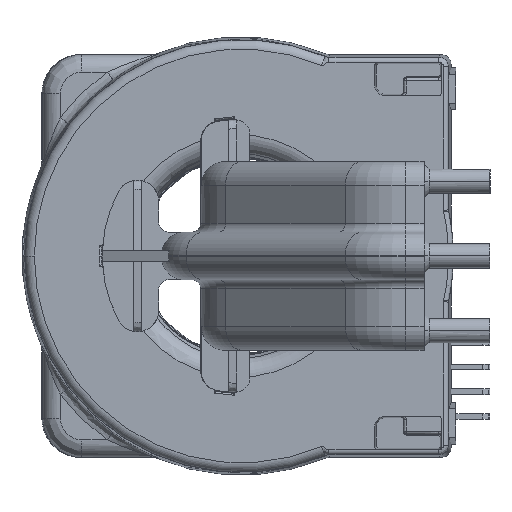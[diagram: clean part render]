
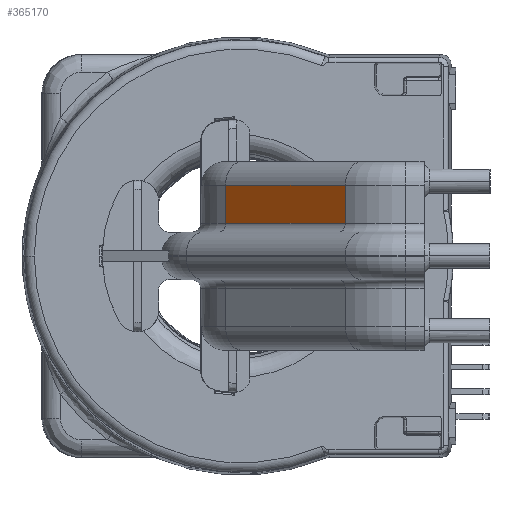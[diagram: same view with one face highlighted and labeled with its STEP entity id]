
A CAD part, front view. The second image highlights one B-rep face of the part: STEP entity #365170.
In plain terms, the highlighted planar face has unit normal (-0.707, -0.707, 0) as drawn and (0.707, 0.707, 0) by its records, which use the part's own axes.
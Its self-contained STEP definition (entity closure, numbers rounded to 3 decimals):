
#335560=CARTESIAN_POINT('',(3.245,14.901,
8.159));
#335570=VERTEX_POINT('',#335560);
#335620=CARTESIAN_POINT('',(3.245,14.901,
12.496));
#335630=DIRECTION('',(0.,0.,-1.));
#335640=VECTOR('',#335630,1.);
#335650=LINE('',#335620,#335640);
#335660=CARTESIAN_POINT('',(3.245,14.901,
4.222));
#335670=VERTEX_POINT('',#335660);
#335680=EDGE_CURVE('',#335570,#335670,#335650,.T.);
#345600=CARTESIAN_POINT('',(-21.13,39.276,
4.222));
#345610=DIRECTION('',(0.707,-0.707,
0.));
#345620=VECTOR('',#345610,1.);
#345630=LINE('',#345600,#345620);
#345640=CARTESIAN_POINT('',(-9.056,27.202,
4.222));
#345650=VERTEX_POINT('',#345640);
#345660=EDGE_CURVE('',#345650,#335670,#345630,.T.);
#362440=CARTESIAN_POINT('',(-9.056,27.202,
12.496));
#362450=DIRECTION('',(0.,0.,-1.));
#362460=VECTOR('',#362450,1.);
#362470=LINE('',#362440,#362460);
#362480=CARTESIAN_POINT('',(-9.056,27.202,
8.159));
#362490=VERTEX_POINT('',#362480);
#362500=EDGE_CURVE('',#362490,#345650,#362470,.T.);
#365010=CARTESIAN_POINT('',(-9.056,27.202,
12.496));
#365020=DIRECTION('',(-0.707,-0.707,
0.));
#365030=DIRECTION('',(0.707,-0.707,
0.));
#365040=AXIS2_PLACEMENT_3D('',#365010,#365020,#365030);
#365050=PLANE('',#365040);
#365060=ORIENTED_EDGE('',*,*,#335680,.T.);
#365070=CARTESIAN_POINT('',(-18.796,36.943,
8.159));
#365080=DIRECTION('',(0.707,-0.707,
0.));
#365090=VECTOR('',#365080,1.);
#365100=LINE('',#365070,#365090);
#365110=EDGE_CURVE('',#362490,#335570,#365100,.T.);
#365120=ORIENTED_EDGE('',*,*,#365110,.T.);
#365130=ORIENTED_EDGE('',*,*,#362500,.F.);
#365140=ORIENTED_EDGE('',*,*,#345660,.F.);
#365150=EDGE_LOOP('',(#365140,#365130,#365120,#365060));
#365160=FACE_OUTER_BOUND('',#365150,.T.);
#365170=ADVANCED_FACE('',(#365160),#365050,.F.);
